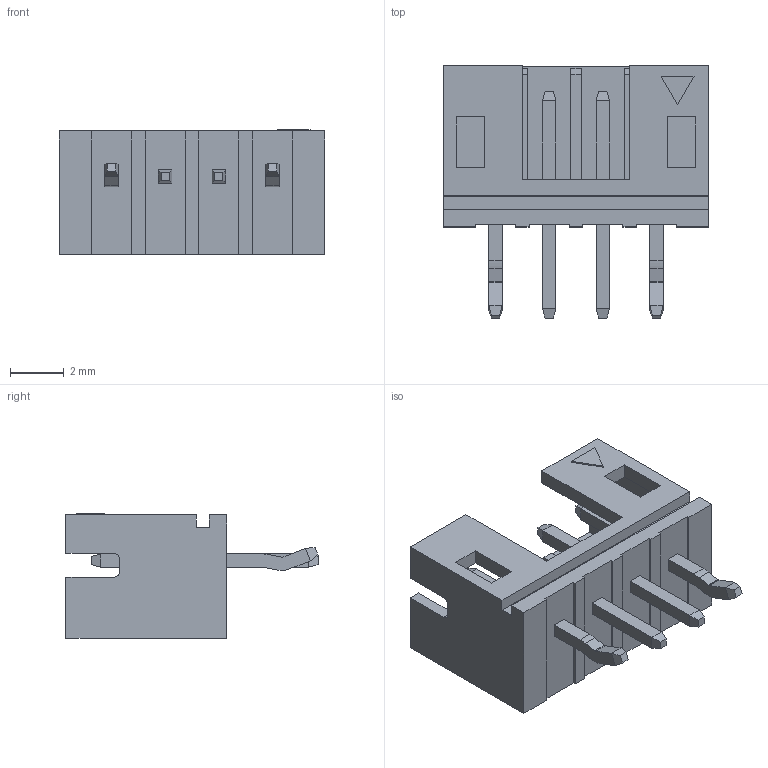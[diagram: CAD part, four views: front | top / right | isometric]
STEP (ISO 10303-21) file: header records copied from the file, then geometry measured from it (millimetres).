
FILE_DESCRIPTION (( 'STEP AP214' ), '1' );
FILE_NAME ('SWR201-NRTN-S04-SA-WH.STEP', '2025-01-08T23:12:38', ( '' ), ( '' ), 'SwSTEP 2.0', 'SolidWorks 2021', '' );
FILE_SCHEMA (( 'AUTOMOTIVE_DESIGN' ));
Length unit declared in the file: millimetre
Products named in the file (1): SWR201-NRTN-S04-SA-WH
Bounding box: 9.9 x 9.4 x 4.65 mm (x, y, z)
Volume: 119.7 mm3; surface area: 447.5 mm2
Topology: 5 solids, 5 shells, 160 faces, 415 edges, 266 vertices
Faces by surface type: plane 148, cylinder 12
Entity records: 4861 total; most frequent: CARTESIAN_POINT 842, ORIENTED_EDGE 830, DIRECTION 761, EDGE_CURVE 415, LINE 391, VECTOR 391, VERTEX_POINT 266, AXIS2_PLACEMENT_3D 185
